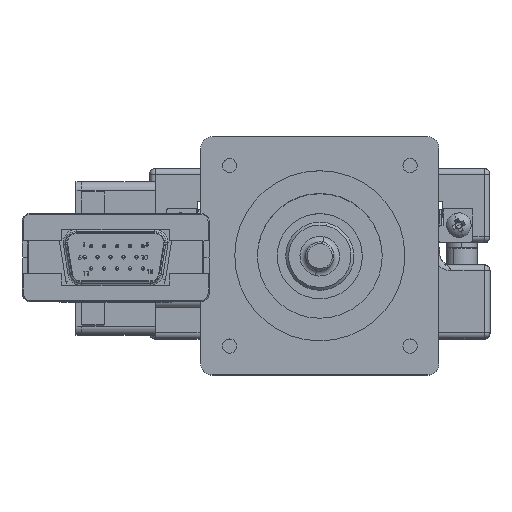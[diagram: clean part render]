
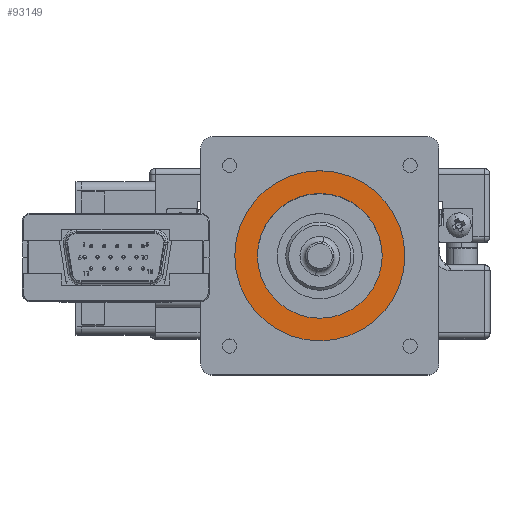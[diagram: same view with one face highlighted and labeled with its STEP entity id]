
A CAD part, top view. The second image highlights one B-rep face of the part: STEP entity #93149.
In plain terms, the highlighted planar face has unit normal (0, 0, 1).
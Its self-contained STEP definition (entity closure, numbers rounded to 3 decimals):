
#38 = CARTESIAN_POINT ( 'NONE',  ( -15., 14.5, 52. ) ) ;
#1237 = AXIS2_PLACEMENT_3D ( 'NONE', #5810, #58167, #110575 ) ;
#1673 = VERTEX_POINT ( 'NONE', #110685 ) ;
#3517 = CARTESIAN_POINT ( 'NONE',  ( 0., 14.5, 52. ) ) ;
#3728 = CIRCLE ( 'NONE', #33902, 11. ) ;
#5810 = CARTESIAN_POINT ( 'NONE',  ( 0., 14.5, 52. ) ) ;
#13552 = CARTESIAN_POINT ( 'NONE',  ( 0., 14.5, 52. ) ) ;
#21682 = AXIS2_PLACEMENT_3D ( 'NONE', #13552, #132038, #120849 ) ;
#22900 = EDGE_CURVE ( 'NONE', #124305, #99152, #23410, .T. ) ;
#23129 = EDGE_LOOP ( 'NONE', ( #101324, #126211 ) ) ;
#23410 = CIRCLE ( 'NONE', #102955, 15. ) ;
#23417 = DIRECTION ( 'NONE',  ( 0., 0., -1. ) ) ;
#27193 = CIRCLE ( 'NONE', #21682, 15. ) ;
#28428 = EDGE_CURVE ( 'NONE', #106196, #1673, #3728, .T. ) ;
#33902 = AXIS2_PLACEMENT_3D ( 'NONE', #104414, #115607, #88972 ) ;
#48292 = DIRECTION ( 'NONE',  ( 1., 0., 0. ) ) ;
#52708 = DIRECTION ( 'NONE',  ( 0., 0., 1. ) ) ;
#58167 = DIRECTION ( 'NONE',  ( 0., 0., 1. ) ) ;
#68485 = EDGE_LOOP ( 'NONE', ( #97130, #95496 ) ) ;
#80269 = CIRCLE ( 'NONE', #91195, 11. ) ;
#83943 = FACE_BOUND ( 'NONE', #68485, .T. ) ;
#88972 = DIRECTION ( 'NONE',  ( 1., 0., 0. ) ) ;
#89007 = EDGE_CURVE ( 'NONE', #1673, #106196, #80269, .T. ) ;
#91195 = AXIS2_PLACEMENT_3D ( 'NONE', #129856, #23417, #48292 ) ;
#93149 = ADVANCED_FACE ( 'NONE', ( #83943, #136357 ), #123497, .T. ) ;
#95496 = ORIENTED_EDGE ( 'NONE', *, *, #28428, .T. ) ;
#97130 = ORIENTED_EDGE ( 'NONE', *, *, #89007, .T. ) ;
#99152 = VERTEX_POINT ( 'NONE', #148639 ) ;
#101324 = ORIENTED_EDGE ( 'NONE', *, *, #102666, .T. ) ;
#102666 = EDGE_CURVE ( 'NONE', #99152, #124305, #27193, .T. ) ;
#102955 = AXIS2_PLACEMENT_3D ( 'NONE', #3517, #52708, #143756 ) ;
#104414 = CARTESIAN_POINT ( 'NONE',  ( 0., 14.5, 52. ) ) ;
#106196 = VERTEX_POINT ( 'NONE', #109359 ) ;
#109359 = CARTESIAN_POINT ( 'NONE',  ( -11., 14.5, 52. ) ) ;
#110575 = DIRECTION ( 'NONE',  ( 1., 0., 0. ) ) ;
#110685 = CARTESIAN_POINT ( 'NONE',  ( 11., 14.5, 52. ) ) ;
#115607 = DIRECTION ( 'NONE',  ( 0., 0., -1. ) ) ;
#120849 = DIRECTION ( 'NONE',  ( 1., 0., 0. ) ) ;
#123497 = PLANE ( 'NONE',  #1237 ) ;
#124305 = VERTEX_POINT ( 'NONE', #38 ) ;
#126211 = ORIENTED_EDGE ( 'NONE', *, *, #22900, .T. ) ;
#129856 = CARTESIAN_POINT ( 'NONE',  ( 0., 14.5, 52. ) ) ;
#132038 = DIRECTION ( 'NONE',  ( 0., 0., 1. ) ) ;
#136357 = FACE_OUTER_BOUND ( 'NONE', #23129, .T. ) ;
#143756 = DIRECTION ( 'NONE',  ( 1., 0., 0. ) ) ;
#148639 = CARTESIAN_POINT ( 'NONE',  ( 15., 14.5, 52. ) ) ;
